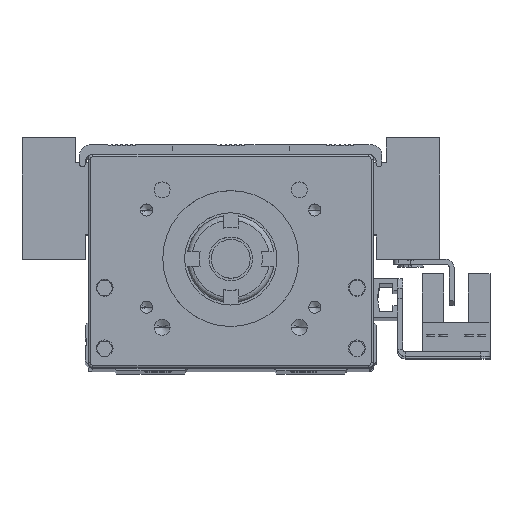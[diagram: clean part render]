
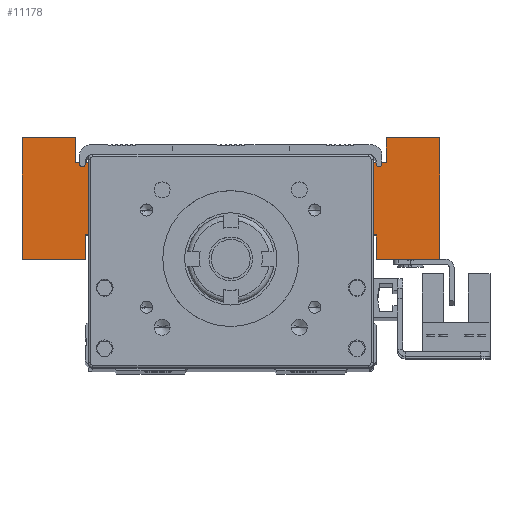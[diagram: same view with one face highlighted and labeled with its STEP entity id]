
A CAD part, top view. The second image highlights one B-rep face of the part: STEP entity #11178.
In plain terms, the highlighted planar face has unit normal (0, 0, 1) as drawn and (0, 1, 0) by its records, which use the part's own axes.
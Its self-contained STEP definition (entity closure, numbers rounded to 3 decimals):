
#463 = CARTESIAN_POINT ( 'NONE',  ( -37.915, 18.194, 65.1 ) ) ;
#699 = ORIENTED_EDGE ( 'NONE', *, *, #59764, .F. ) ;
#1071 = VERTEX_POINT ( 'NONE', #64618 ) ;
#1398 = LINE ( 'NONE', #43155, #30781 ) ;
#1593 = EDGE_CURVE ( 'NONE', #12738, #10376, #60467, .T. ) ;
#1954 = DIRECTION ( 'NONE',  ( -1., 0., 0. ) ) ;
#2878 = LINE ( 'NONE', #21955, #31348 ) ;
#3060 = CARTESIAN_POINT ( 'NONE',  ( 22.085, 18.194, 60.1 ) ) ;
#4361 = ORIENTED_EDGE ( 'NONE', *, *, #53075, .F. ) ;
#5093 = DIRECTION ( 'NONE',  ( 0., 0., -1. ) ) ;
#5604 = VERTEX_POINT ( 'NONE', #8082 ) ;
#5783 = VERTEX_POINT ( 'NONE', #39033 ) ;
#6830 = ORIENTED_EDGE ( 'NONE', *, *, #74464, .F. ) ;
#7589 = DIRECTION ( 'NONE',  ( 0., 0., -1. ) ) ;
#8082 = CARTESIAN_POINT ( 'NONE',  ( 13.085, 18.194, 70.1 ) ) ;
#8701 = DIRECTION ( 'NONE',  ( 1., 0., 0. ) ) ;
#9237 = CARTESIAN_POINT ( 'NONE',  ( -37.915, 18.194, 60.1 ) ) ;
#10376 = VERTEX_POINT ( 'NONE', #15032 ) ;
#11178 = ADVANCED_FACE ( 'NONE', ( #23130 ), #35118, .F. ) ;
#12070 = VERTEX_POINT ( 'NONE', #49798 ) ;
#12242 = VERTEX_POINT ( 'NONE', #67193 ) ;
#12738 = VERTEX_POINT ( 'NONE', #463 ) ;
#13998 = VECTOR ( 'NONE', #73002, 1000. ) ;
#14904 = ORIENTED_EDGE ( 'NONE', *, *, #1593, .F. ) ;
#15032 = CARTESIAN_POINT ( 'NONE',  ( -28.915, 18.194, 65.1 ) ) ;
#15233 = EDGE_CURVE ( 'NONE', #23499, #5604, #34339, .T. ) ;
#15394 = CARTESIAN_POINT ( 'NONE',  ( 35.085, 18.194, 60.1 ) ) ;
#15946 = DIRECTION ( 'NONE',  ( 0., 0., 1. ) ) ;
#16034 = VECTOR ( 'NONE', #29879, 1000. ) ;
#16284 = DIRECTION ( 'NONE',  ( 0., 0., 1. ) ) ;
#16456 = ORIENTED_EDGE ( 'NONE', *, *, #28295, .F. ) ;
#17734 = DIRECTION ( 'NONE',  ( 0., -1., 0. ) ) ;
#18267 = CARTESIAN_POINT ( 'NONE',  ( -28.915, 18.194, 65.1 ) ) ;
#18880 = DIRECTION ( 'NONE',  ( 0., 0., 1. ) ) ;
#19455 = VECTOR ( 'NONE', #8701, 1000. ) ;
#19499 = ORIENTED_EDGE ( 'NONE', *, *, #20025, .F. ) ;
#19743 = VECTOR ( 'NONE', #16284, 1000. ) ;
#19779 = EDGE_CURVE ( 'NONE', #1071, #65405, #1398, .T. ) ;
#20025 = EDGE_CURVE ( 'NONE', #10376, #23499, #66487, .T. ) ;
#21130 = DIRECTION ( 'NONE',  ( -1., 0., 0. ) ) ;
#21904 = CARTESIAN_POINT ( 'NONE',  ( -28.915, 18.194, 70.1 ) ) ;
#21955 = CARTESIAN_POINT ( 'NONE',  ( -37.915, 18.194, 65.1 ) ) ;
#22332 = CARTESIAN_POINT ( 'NONE',  ( 35.085, 18.194, 60.1 ) ) ;
#23130 = FACE_OUTER_BOUND ( 'NONE', #63011, .T. ) ;
#23499 = VERTEX_POINT ( 'NONE', #65572 ) ;
#23898 = CARTESIAN_POINT ( 'NONE',  ( -37.915, 18.194, 60.1 ) ) ;
#25675 = CARTESIAN_POINT ( 'NONE',  ( 35.085, 18.194, 85.1 ) ) ;
#27515 = VERTEX_POINT ( 'NONE', #37844 ) ;
#27744 = LINE ( 'NONE', #33433, #72523 ) ;
#27760 = CARTESIAN_POINT ( 'NONE',  ( 24.085, 18.194, 85.1 ) ) ;
#28295 = EDGE_CURVE ( 'NONE', #71991, #52098, #27744, .T. ) ;
#29879 = DIRECTION ( 'NONE',  ( 1., 0., 0. ) ) ;
#30118 = ORIENTED_EDGE ( 'NONE', *, *, #34956, .F. ) ;
#30270 = VECTOR ( 'NONE', #15946, 1000. ) ;
#30781 = VECTOR ( 'NONE', #1954, 1000. ) ;
#30792 = LINE ( 'NONE', #58385, #64597 ) ;
#30825 = VERTEX_POINT ( 'NONE', #60538 ) ;
#31348 = VECTOR ( 'NONE', #62907, 1000. ) ;
#32961 = LINE ( 'NONE', #22332, #30270 ) ;
#33433 = CARTESIAN_POINT ( 'NONE',  ( 35.085, 18.194, 85.1 ) ) ;
#33913 = ORIENTED_EDGE ( 'NONE', *, *, #15233, .F. ) ;
#34339 = LINE ( 'NONE', #52344, #16034 ) ;
#34385 = CARTESIAN_POINT ( 'NONE',  ( -50.915, 18.194, 85.1 ) ) ;
#34724 = VECTOR ( 'NONE', #46656, 1000. ) ;
#34956 = EDGE_CURVE ( 'NONE', #30825, #69839, #52106, .T. ) ;
#35034 = LINE ( 'NONE', #3060, #19455 ) ;
#35118 = PLANE ( 'NONE',  #35502 ) ;
#35502 = AXIS2_PLACEMENT_3D ( 'NONE', #58925, #17734, #75759 ) ;
#37033 = VECTOR ( 'NONE', #7589, 1000. ) ;
#37844 = CARTESIAN_POINT ( 'NONE',  ( 24.085, 18.194, 80.1 ) ) ;
#38915 = CARTESIAN_POINT ( 'NONE',  ( 13.085, 18.194, 65.1 ) ) ;
#39033 = CARTESIAN_POINT ( 'NONE',  ( -39.915, 18.194, 80.1 ) ) ;
#40107 = LINE ( 'NONE', #55231, #68462 ) ;
#41447 = ORIENTED_EDGE ( 'NONE', *, *, #52092, .F. ) ;
#42022 = VECTOR ( 'NONE', #46620, 1000. ) ;
#42132 = LINE ( 'NONE', #60100, #58665 ) ;
#43155 = CARTESIAN_POINT ( 'NONE',  ( -50.915, 18.194, 85.1 ) ) ;
#43513 = ORIENTED_EDGE ( 'NONE', *, *, #61494, .F. ) ;
#43710 = ORIENTED_EDGE ( 'NONE', *, *, #19779, .F. ) ;
#44097 = CARTESIAN_POINT ( 'NONE',  ( 24.085, 18.194, 85.1 ) ) ;
#44171 = ORIENTED_EDGE ( 'NONE', *, *, #45881, .F. ) ;
#45881 = EDGE_CURVE ( 'NONE', #65405, #30825, #30792, .T. ) ;
#46620 = DIRECTION ( 'NONE',  ( 1., 0., 0. ) ) ;
#46656 = DIRECTION ( 'NONE',  ( 1., 0., 0. ) ) ;
#47301 = VERTEX_POINT ( 'NONE', #15394 ) ;
#47911 = DIRECTION ( 'NONE',  ( 1., 0., 0. ) ) ;
#49798 = CARTESIAN_POINT ( 'NONE',  ( 22.085, 18.194, 60.1 ) ) ;
#50295 = LINE ( 'NONE', #53256, #42022 ) ;
#50390 = VECTOR ( 'NONE', #47911, 1000. ) ;
#50964 = CARTESIAN_POINT ( 'NONE',  ( -39.915, 18.194, 80.1 ) ) ;
#51451 = DIRECTION ( 'NONE',  ( -1., 0., 0. ) ) ;
#52092 = EDGE_CURVE ( 'NONE', #47301, #71991, #32961, .T. ) ;
#52098 = VERTEX_POINT ( 'NONE', #27760 ) ;
#52106 = LINE ( 'NONE', #23898, #34724 ) ;
#52344 = CARTESIAN_POINT ( 'NONE',  ( 13.085, 18.194, 70.1 ) ) ;
#53075 = EDGE_CURVE ( 'NONE', #52098, #27515, #71663, .T. ) ;
#53256 = CARTESIAN_POINT ( 'NONE',  ( 13.085, 18.194, 65.1 ) ) ;
#53486 = LINE ( 'NONE', #59621, #37033 ) ;
#53985 = EDGE_CURVE ( 'NONE', #5604, #72785, #40107, .T. ) ;
#55231 = CARTESIAN_POINT ( 'NONE',  ( 13.085, 18.194, 70.1 ) ) ;
#57593 = ORIENTED_EDGE ( 'NONE', *, *, #65739, .F. ) ;
#58385 = CARTESIAN_POINT ( 'NONE',  ( -50.915, 18.194, 60.1 ) ) ;
#58665 = VECTOR ( 'NONE', #18880, 1000. ) ;
#58925 = CARTESIAN_POINT ( 'NONE',  ( -7.915, 18.194, 70.1 ) ) ;
#59306 = VECTOR ( 'NONE', #51451, 1000. ) ;
#59576 = EDGE_CURVE ( 'NONE', #69839, #12738, #2878, .T. ) ;
#59621 = CARTESIAN_POINT ( 'NONE',  ( 22.085, 18.194, 65.1 ) ) ;
#59764 = EDGE_CURVE ( 'NONE', #5783, #1071, #42132, .T. ) ;
#60100 = CARTESIAN_POINT ( 'NONE',  ( -39.915, 18.194, 85.1 ) ) ;
#60467 = LINE ( 'NONE', #18267, #50390 ) ;
#60538 = CARTESIAN_POINT ( 'NONE',  ( -50.915, 18.194, 60.1 ) ) ;
#61494 = EDGE_CURVE ( 'NONE', #72785, #12242, #50295, .T. ) ;
#62257 = ORIENTED_EDGE ( 'NONE', *, *, #59576, .F. ) ;
#62907 = DIRECTION ( 'NONE',  ( 0., 0., 1. ) ) ;
#63011 = EDGE_LOOP ( 'NONE', ( #4361, #16456, #41447, #57593, #66002, #43513, #68584, #33913, #19499, #14904, #62257, #30118, #44171, #43710, #699, #6830 ) ) ;
#64597 = VECTOR ( 'NONE', #5093, 1000. ) ;
#64618 = CARTESIAN_POINT ( 'NONE',  ( -39.915, 18.194, 85.1 ) ) ;
#65405 = VERTEX_POINT ( 'NONE', #34385 ) ;
#65572 = CARTESIAN_POINT ( 'NONE',  ( -28.915, 18.194, 70.1 ) ) ;
#65739 = EDGE_CURVE ( 'NONE', #12070, #47301, #35034, .T. ) ;
#66002 = ORIENTED_EDGE ( 'NONE', *, *, #70811, .F. ) ;
#66487 = LINE ( 'NONE', #21904, #19743 ) ;
#66728 = DIRECTION ( 'NONE',  ( 0., 0., -1. ) ) ;
#67193 = CARTESIAN_POINT ( 'NONE',  ( 22.085, 18.194, 65.1 ) ) ;
#68462 = VECTOR ( 'NONE', #66728, 1000. ) ;
#68584 = ORIENTED_EDGE ( 'NONE', *, *, #53985, .F. ) ;
#69839 = VERTEX_POINT ( 'NONE', #9237 ) ;
#70811 = EDGE_CURVE ( 'NONE', #12242, #12070, #53486, .T. ) ;
#71663 = LINE ( 'NONE', #44097, #13998 ) ;
#71991 = VERTEX_POINT ( 'NONE', #25675 ) ;
#72523 = VECTOR ( 'NONE', #21130, 1000. ) ;
#72785 = VERTEX_POINT ( 'NONE', #38915 ) ;
#73002 = DIRECTION ( 'NONE',  ( 0., 0., -1. ) ) ;
#74464 = EDGE_CURVE ( 'NONE', #27515, #5783, #74789, .T. ) ;
#74789 = LINE ( 'NONE', #50964, #59306 ) ;
#75759 = DIRECTION ( 'NONE',  ( 1., 0., 0. ) ) ;
